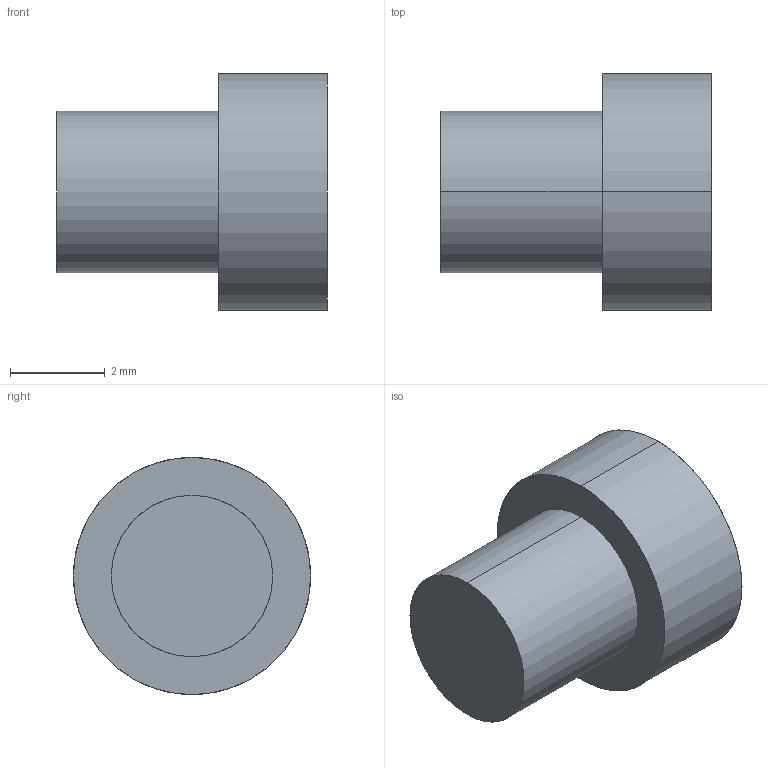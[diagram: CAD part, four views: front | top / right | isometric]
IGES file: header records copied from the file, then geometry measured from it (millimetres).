
Start section: SolidWorks IGES FILE using analytic representation for surfaces
Global section: file name: C:\Documents and Settings\brechard\Bureau\GE 67\53.100.10.IGS; native system: SolidWorks 2001Plus by SolidWorks Corporation; preprocessor: Version 5.3; author: brechard; date: 050126.103532; units: millimetre
Bounding box: 5.7 x 5 x 5 mm (x, y, z)
Surface area: 111.7 mm2 (no closed solid volume)
Topology: 0 solids, 0 shells, 7 faces, 144 edges, 144 vertices
Faces by surface type: revolution 4, bspline 3
